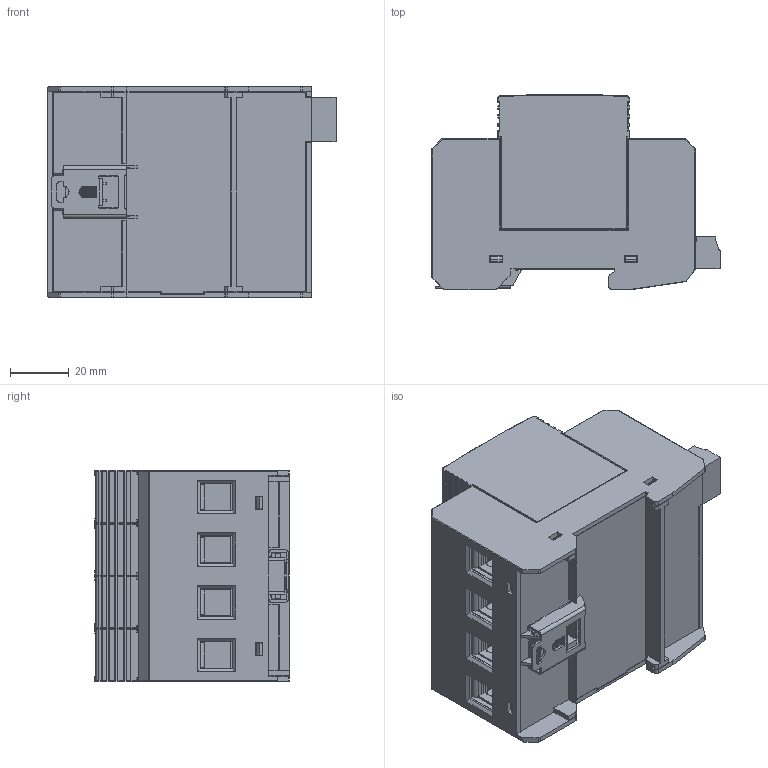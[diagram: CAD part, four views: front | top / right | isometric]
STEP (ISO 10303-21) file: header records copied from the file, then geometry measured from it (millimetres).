
FILE_DESCRIPTION((''),'2;1');
FILE_NAME('00','2023-02-08T11:19:17',('1019240'),(''),'CREO PARAMETRIC BY PTC INC, 2021404','CREO PARAMETRIC BY PTC INC, 2021404','');
FILE_SCHEMA(('CONFIG_CONTROL_DESIGN'));
Products named in the file (1): 00
Bounding box: 98.4 x 66.5 x 72 mm (x, y, z)
Volume: 107394.6 mm3; surface area: 155226.5 mm2
Topology: 1 solids, 9 shells, 4551 faces, 12598 edges, 7818 vertices
Faces by surface type: plane 2937, cylinder 956, bspline 200, sphere 173, torus 167, cone 118
Entity records: 161960 total; most frequent: CARTESIAN_POINT 48611, ORIENTED_EDGE 24742, DIRECTION 21812, EDGE_CURVE 12371, VECTOR 9132, LINE 9132, VERTEX_POINT 7913, AXIS2_PLACEMENT_3D 6340
